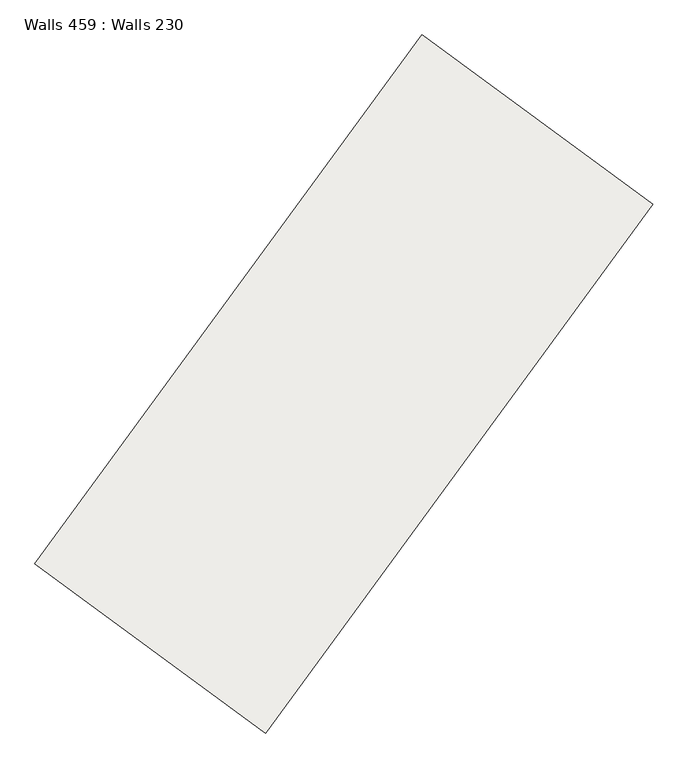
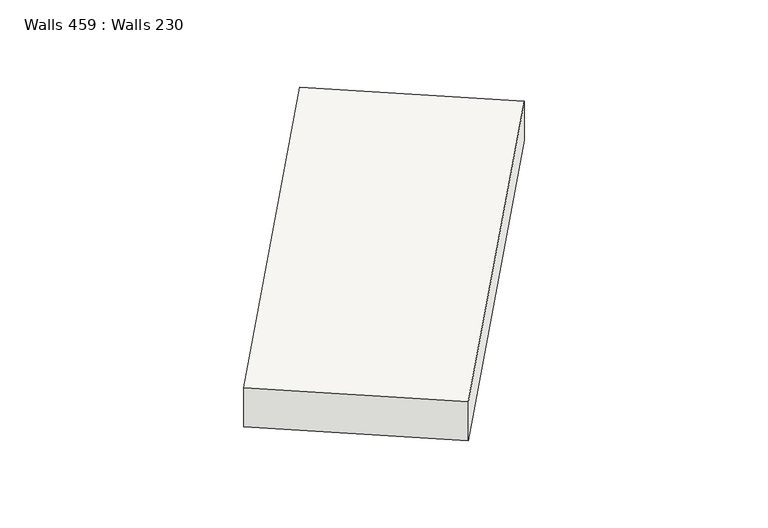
"""IFC4 building model written with IfcOpenShell, lengths in millimetres: slab geometry, Walls 459 : Walls 230."""

import ifcopenshell
import ifcopenshell.guid

model = None  # the IFC model being written
_history = None  # IfcOwnerHistory: only IFC2X3 demands one
_inside = {}  # id of a spatial element -> (the spatial element, [elements in it])
_under = {}  # id of a project, library or spatial element -> (it, [spatial elements below it])
_declared = {}  # id of a project -> (the project, [libraries it declares])
_typed = {}  # id of a type object -> (the type object, [elements of that type])
_made_of = {}  # id of a material, layer set ... -> (it, [elements and type objects made of it])


def new_model(schema):
    """Start an empty IFC model of exactly this schema.

    Asked for "IFC4X3", IfcOpenShell would pick the latest addendum, in which some entities
    have other attributes; the version numbers below select the first issue.
    IFC2X3 requires an IfcOwnerHistory on every rooted entity: one is made here for all.
    """
    global model, _history
    if schema == "IFC4X3":
        model = ifcopenshell.file(schema_version=(4, 3, 0, 0))
    else:
        model = ifcopenshell.file(schema=schema)
    _inside.clear()
    _under.clear()
    _declared.clear()
    _typed.clear()
    _made_of.clear()
    _history = None
    if model.schema == "IFC2X3":
        org = make("IfcOrganization", Name="unknown")
        user = make(
            "IfcPersonAndOrganization",
            ThePerson=make("IfcPerson", FamilyName="unknown"),
            TheOrganization=org,
        )
        app = make(
            "IfcApplication",
            ApplicationDeveloper=org,
            Version="unknown",
            ApplicationFullName="unknown",
            ApplicationIdentifier="unknown",
        )
        _history = make(
            "IfcOwnerHistory",
            OwningUser=user,
            OwningApplication=app,
            ChangeAction="ADDED",
            CreationDate=0,
        )
    return model


def make(cls, **values):
    """One entity of the class cls with the attributes given. An attribute that is None is left unset."""
    return model.create_entity(
        cls, **{name: value for name, value in values.items() if value is not None}
    )


def rooted(cls, **values):
    """An entity with a GlobalId (a new one), such as an element, a storey or a relation."""
    return make(cls, GlobalId=ifcopenshell.guid.new(), OwnerHistory=_history, **values)


def si_unit(unit_type, name, prefix=None):
    """IfcSIUnit, for example si_unit("LENGTHUNIT", "METRE", prefix="MILLI")."""
    return make("IfcSIUnit", UnitType=unit_type, Prefix=prefix, Name=name)


def assignment(units):
    """IfcUnitAssignment: the units of a project."""
    return None if units is None else make("IfcUnitAssignment", Units=units)


def point(xyz):
    """IfcCartesianPoint."""
    return None if xyz is None else make("IfcCartesianPoint", Coordinates=xyz)


def direction(xyz):
    """IfcDirection."""
    return None if xyz is None else make("IfcDirection", DirectionRatios=xyz)


def frame(location, z_axis=None, x_axis=None):
    """IfcAxis2Placement3D, a coordinate frame: its origin and axes. An axis left out is left unset."""
    return make(
        "IfcAxis2Placement3D",
        Location=point(location),
        Axis=direction(z_axis),
        RefDirection=direction(x_axis),
    )


def origin():
    """The frame at (0, 0, 0) with its axes left unset."""
    return frame((0.0, 0.0, 0.0))


def place(relative_to, where):
    """IfcLocalPlacement: puts the frame where relative to a parent placement (None: the world)."""
    return make(
        "IfcLocalPlacement", PlacementRelTo=relative_to, RelativePlacement=where
    )


def context(
    kind, dimensions, precision=None, world=None, true_north=None, identifier=None
):
    """IfcGeometricRepresentationContext, for example the 3D "Model" context."""
    return make(
        "IfcGeometricRepresentationContext",
        ContextIdentifier=identifier,
        ContextType=kind,
        CoordinateSpaceDimension=dimensions,
        Precision=precision,
        WorldCoordinateSystem=world,
        TrueNorth=true_north,
    )


def project(units=None, contexts=None):
    """IfcProject with its units and contexts."""
    return rooted(
        "IfcProject",
        Name="project",
        RepresentationContexts=contexts,
        UnitsInContext=assignment(units),
    )


def spatial(cls, under=None, at=None, **own):
    """A site, building, storey or space (cls), placed at a placement, below another one or the project."""
    s = rooted(cls, ObjectPlacement=at, **own)
    if under is not None:
        _under.setdefault(under.id(), (under, []))[1].append(s)
    return s


def polyline(points):
    """IfcPolyline through the points."""
    return make("IfcPolyline", Points=[point(p) for p in points])


def outline(outer, holes=None, kind="AREA"):
    """IfcArbitraryClosedProfileDef: a profile drawn as a closed curve; with holes, ...WithVoids."""
    if holes is None:
        return make("IfcArbitraryClosedProfileDef", ProfileType=kind, OuterCurve=outer)
    return make(
        "IfcArbitraryProfileDefWithVoids",
        ProfileType=kind,
        OuterCurve=outer,
        InnerCurves=holes,
    )


def extrude(swept, where, along, depth):
    """IfcExtrudedAreaSolid: the profile swept, set in the frame where, extruded along a direction by depth."""
    return make(
        "IfcExtrudedAreaSolid",
        SweptArea=swept,
        Position=where,
        ExtrudedDirection=direction(along),
        Depth=depth,
    )


def shape(context_of_items, identifier, shape_type, items):
    """IfcShapeRepresentation: the items that make up one representation, for example the "Body"."""
    return make(
        "IfcShapeRepresentation",
        ContextOfItems=context_of_items,
        RepresentationIdentifier=identifier,
        RepresentationType=shape_type,
        Items=items,
    )


def source(mapping_origin, context_of_items, identifier, shape_type, items):
    """IfcRepresentationMap: a shape defined once, which mapped items show again and again."""
    return make(
        "IfcRepresentationMap",
        MappingOrigin=mapping_origin,
        MappedRepresentation=shape(context_of_items, identifier, shape_type, items),
    )


def transform(
    local_origin,
    x_axis=None,
    y_axis=None,
    z_axis=None,
    scale=None,
    scale2=None,
    scale3=None,
    uniform=True,
):
    """IfcCartesianTransformationOperator3D, or its non-uniform kind. x_axis, y_axis, z_axis: its Axis1, 2, 3."""
    if uniform:
        return make(
            "IfcCartesianTransformationOperator3D",
            Axis1=direction(x_axis),
            Axis2=direction(y_axis),
            LocalOrigin=point(local_origin),
            Scale=scale,
            Axis3=direction(z_axis),
        )
    return make(
        "IfcCartesianTransformationOperator3DnonUniform",
        Axis1=direction(x_axis),
        Axis2=direction(y_axis),
        LocalOrigin=point(local_origin),
        Scale=scale,
        Axis3=direction(z_axis),
        Scale2=scale2,
        Scale3=scale3,
    )


def mapped(mapping_source, mapping_target):
    """IfcMappedItem: shows the shape of a source again, moved by a transform."""
    return make(
        "IfcMappedItem", MappingSource=mapping_source, MappingTarget=mapping_target
    )


def made_of(thing, what):
    """Note that an element or type object is made of a material, layer set ...; save() writes the relation."""
    if what is not None:
        _made_of.setdefault(what.id(), (what, []))[1].append(thing)
    return thing


def element(
    cls,
    number,
    at=None,
    inside=None,
    cuts=None,
    type_object=None,
    material=None,
    context=None,
    identifier="Body",
    shape_type=None,
    held_by="IfcProductDefinitionShape",
    body=None,
    shapes=None,
    **own,
):
    """One element of the class cls, such as IfcWall. Its Tag is "e" and its number.

    at: its placement. inside: the storey or other place that contains it. cuts: it is an
    opening in that element (IfcRelVoidsElement). A single representation is given by context,
    identifier, shape_type and body (its items); several are given by shapes. held_by: the class
    of the entity that holds the representations. save() writes the other relations.
    """
    e = rooted(cls, Tag="e%d" % number, ObjectPlacement=at, **own)
    if body is not None:
        shapes = [shape(context, identifier, shape_type, body)]
    if shapes is not None:
        e.Representation = make(held_by, Representations=shapes)
    if inside is not None:
        _inside.setdefault(inside.id(), (inside, []))[1].append(e)
    if cuts is not None:
        rooted(
            "IfcRelVoidsElement", RelatingBuildingElement=cuts, RelatedOpeningElement=e
        )
    if type_object is not None:
        _typed.setdefault(type_object.id(), (type_object, []))[1].append(e)
    return made_of(e, material)


def aggregate(whole, parts):
    """IfcRelAggregates: a whole, such as a stair, and the parts it consists of."""
    return rooted("IfcRelAggregates", RelatingObject=whole, RelatedObjects=parts)


def save(model, path):
    """Write the relations noted so far, then the file.

    IfcRelAggregates (storeys below a building ...), IfcRelContainedInSpatialStructure (elements
    in a storey), IfcRelDefinesByType, IfcRelAssociatesMaterial and IfcRelDeclares: one each for
    every whole, place, type object, material and project.
    """
    for whole, parts in _under.values():
        aggregate(whole, parts)
    for where, things in _inside.values():
        rooted(
            "IfcRelContainedInSpatialStructure",
            RelatedElements=things,
            RelatingStructure=where,
        )
    for kind, things in _typed.values():
        rooted("IfcRelDefinesByType", RelatedObjects=things, RelatingType=kind)
    for what, things in _made_of.values():
        rooted("IfcRelAssociatesMaterial", RelatedObjects=things, RelatingMaterial=what)
    for by, libraries in _declared.values():
        rooted("IfcRelDeclares", RelatingContext=by, RelatedDefinitions=libraries)
    model.write(path)


def walls_459_walls_230_5b32d396(model_context):
    return source(origin(), model_context, "Body", "SweptSolid", [
        extrude(outline(polyline([(-400.0, 0.0), (400.0, 0.0), (287.8, -8700.0000008), (-512.2, -8700.0000008), (-400.0, 0.0)])), frame((434612.9885984, 311517.2795458, 646099.1), z_axis=(-0.8067016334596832, 0.5909589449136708, 0.0), x_axis=(0.0, 0.0, 1.0)), (0.0, 0.0, 1.0), 3800.0),
    ])


if __name__ == "__main__":
    model = new_model("IFC4")
    model_context = context("Model", 3, world=origin())
    ifc_project = project(units=[si_unit("LENGTHUNIT", "METRE", prefix="MILLI")], contexts=[model_context])
    site = spatial("IfcSite", under=ifc_project)
    building = spatial("IfcBuilding", under=site)
    placement = place(None, origin())
    walls_459_walls_230_shape = walls_459_walls_230_5b32d396(model_context)
    element("IfcSlab", 1, ObjectType="Walls 459 : Walls 230", at=placement, inside=building, context=model_context, shape_type="MappedRepresentation", body=[
        mapped(walls_459_walls_230_shape, transform((0.0, 0.0, 0.0), x_axis=(1.0, 0.0, 0.0), y_axis=(0.0, 1.0, 0.0), z_axis=(0.0, 0.0, 1.0))),
    ])
    save(model, "model.ifc")
